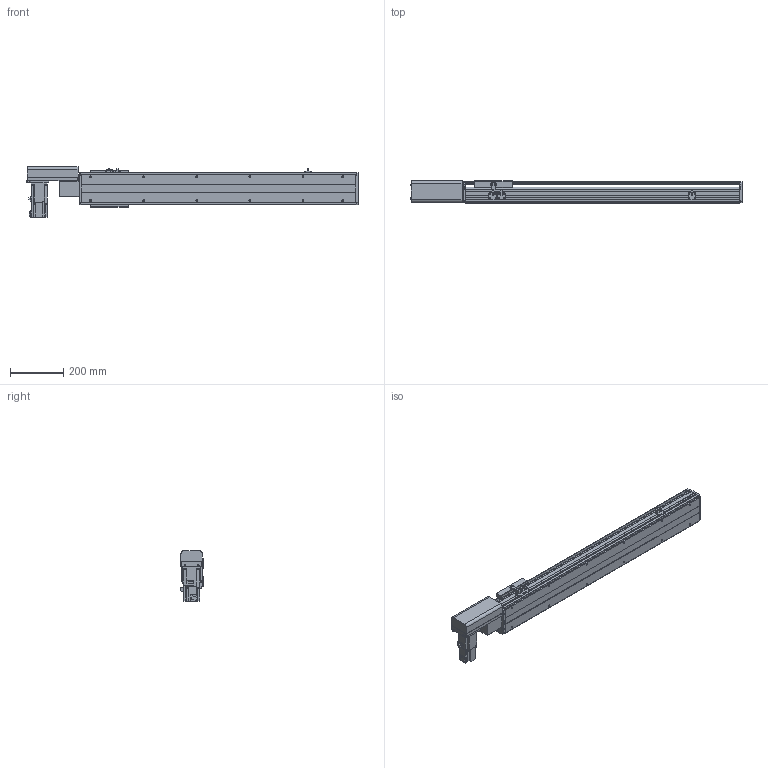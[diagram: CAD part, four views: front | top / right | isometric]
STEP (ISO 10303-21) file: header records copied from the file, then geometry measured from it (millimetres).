
FILE_DESCRIPTION( ( 'STEP AP214' ), '1' );
FILE_NAME( 'x:/temp/worker_27/temp/exporttempdir_6708_8_5NQlv/format_0/PBS120-P40-S750-R-T40-C1-N(0).stp', '2022-06-06T00:06:17', ( 'License CC BY-ND 4.0' ), ( 'CADENAS' ), ' ', 'PARTsolutions', ' ' );
FILE_SCHEMA( ( 'AUTOMOTIVE_DESIGN { 1 0 10303 214 1 1 1 1 }' ) );
Length unit declared in the file: millimetre
Products named in the file (7): PBS120-P40-S750-R-T40-C1-N(0); _PBS120-S750()_body; _PBS120T-R_motors; _T40-p1; _PBS120_sliser; _PBS120_plant; _PBS120_sensor
Assembly tree (8 placements, depth 2):
  PBS120-P40-S750-R-T40-C1-N(0)
    _PBS120-S750()_body
    _PBS120T-R_motors
    _T40-p1
    _PBS120_sliser
    _PBS120_plant
    _PBS120_sensor  x3
Bounding box: 1251 x 83 x 189.7 mm (x, y, z)
Volume: 5147558.2 mm3; surface area: 984197.2 mm2
Topology: 8 solids, 8 shells, 816 faces, 2136 edges, 1375 vertices
Faces by surface type: plane 545, cylinder 225, cone 44, torus 2
Full cylindrical faces by diameter (mm): 2.459 x6, 3.242 x4, 4 x2, 4.134 x4, 4.5 x10, 4.917 x16, 5.5 x11, 6 x2, 6.6 x1, 7 x2, 8.5 x4, 9 x4, 12 x1, 14 x1, 30 x2, 40 x1, 50 x2
Entity records: 26988 total; most frequent: DIRECTION 3692, CARTESIAN_POINT 3641, ORIENTED_EDGE 3478, EDGE_CURVE 1739, AXIS2_PLACEMENT_3D 1232, LINE 1228, VECTOR 1228, VERTEX_POINT 1181
